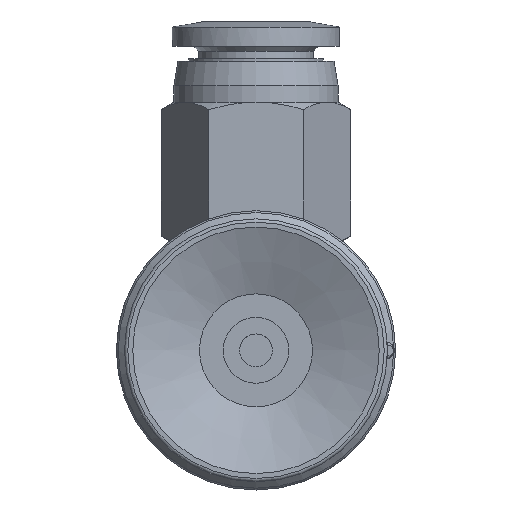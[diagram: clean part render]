
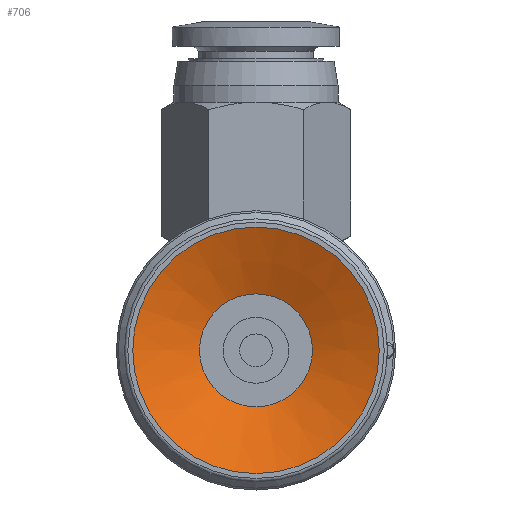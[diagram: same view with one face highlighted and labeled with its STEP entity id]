
A CAD part, front view. The second image highlights one B-rep face of the part: STEP entity #706.
In plain terms, the highlighted conical face has half-angle 67.5 degrees and reference radius 3.437 mm.
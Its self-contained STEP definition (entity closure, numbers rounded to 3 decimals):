
#706=ADVANCED_FACE('',(#1046,#1047),#1048,.F.);
#1046=FACE_BOUND('',#2484,.T.);
#1047=FACE_OUTER_BOUND('',#2485,.T.);
#1048=CONICAL_SURFACE('',#2486,3.437,1.178);
#2484=EDGE_LOOP('',(#3556));
#2485=EDGE_LOOP('',(#3557));
#2486=AXIS2_PLACEMENT_3D('',#3558,#3559,#3560);
#3556=ORIENTED_EDGE('',*,*,#4110,.F.);
#3557=ORIENTED_EDGE('',*,*,#4114,.T.);
#3558=CARTESIAN_POINT('',(0.0,0.0,1.683));
#3559=DIRECTION('',(0.0,0.,-1.0));
#3560=DIRECTION('',(0.0,1.0,0.));
#4110=EDGE_CURVE('',#4546,#4546,#4547,.T.);
#4114=EDGE_CURVE('',#4554,#4554,#4555,.T.);
#4546=VERTEX_POINT('',#5641);
#4547=CIRCLE('',#5642,3.437);
#4554=VERTEX_POINT('',#5649);
#4555=CIRCLE('',#5650,7.5);
#5641=CARTESIAN_POINT('',(-3.437,0.0,1.683));
#5642=AXIS2_PLACEMENT_3D('',#6414,#6415,#6416);
#5649=CARTESIAN_POINT('',(-7.5,0.0,0.));
#5650=AXIS2_PLACEMENT_3D('',#6426,#6427,#6428);
#6414=CARTESIAN_POINT('',(0.0,0.0,1.683));
#6415=DIRECTION('',(0.0,0.,-1.0));
#6416=DIRECTION('',(0.0,1.0,0.));
#6426=CARTESIAN_POINT('',(0.0,0.0,0.));
#6427=DIRECTION('',(0.0,0.,-1.0));
#6428=DIRECTION('',(0.0,1.0,0.));
